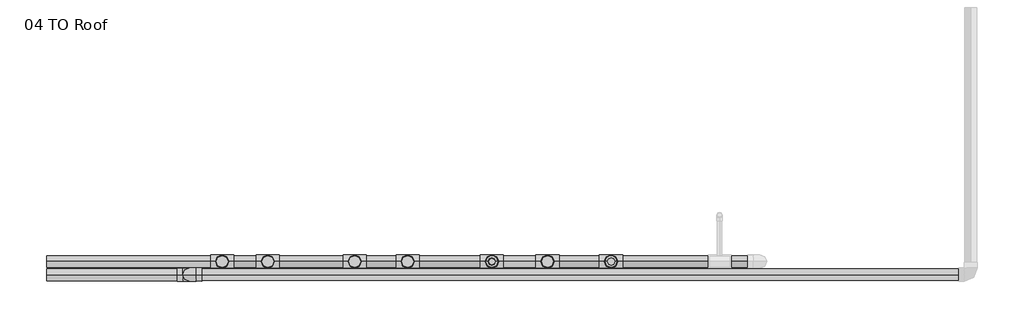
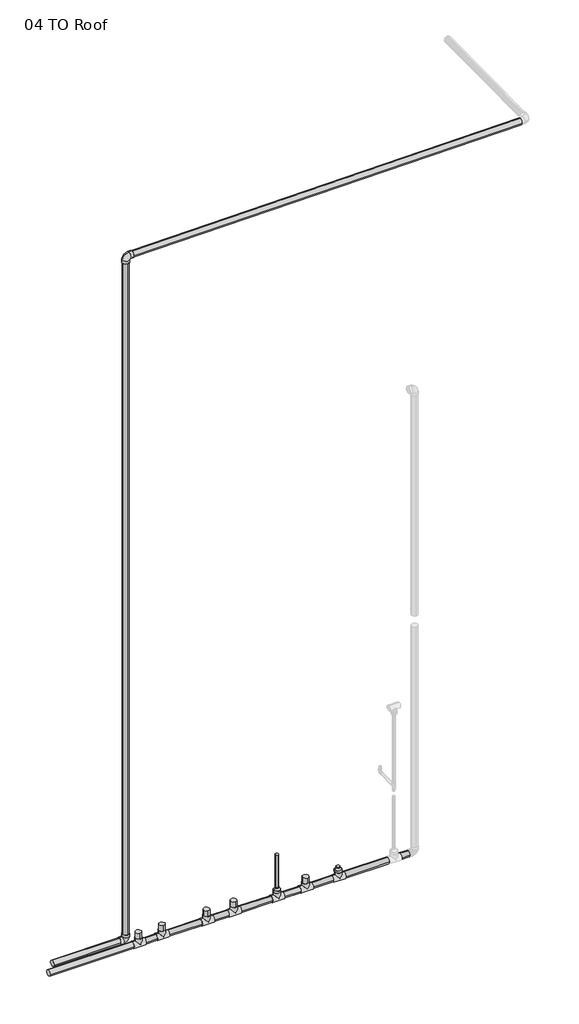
# One storey, part 1 of 2: 18 pipe segments, 11 pipe fittings.
"""IFC4 building model written with IfcOpenShell, lengths in millimetres."""

from ifc_helpers import new_model, si_unit, point, frame, frame_2d, origin, place, context, project, spatial, circle_curve, trimmed, segment, composite_curve, outline, extrude, transform, mapped, element, save
from components import elbow_pvc_sch_40_standard_f9cb6bb1, elbow_pvc_sch_40_standard_512eced2, reducer_pvc_sch_40_dwv_standard_07db09cb, tee_pvc_sch_40_standard_5c3f4d2b

model = new_model("IFC4")

# Units and contexts
model_context = context("Model", 3, world=origin())
ifc_project = project(units=[si_unit("LENGTHUNIT", "METRE", prefix="MILLI")], contexts=[model_context])

# Site, building, storey
site = spatial("IfcSite", under=ifc_project)
building = spatial("IfcBuilding", under=site)
storey = spatial("IfcBuildingStorey", under=building, Name="04 TO Roof", Elevation=13716.0)

# Pipe fittings
placement = place(None, origin())
elbow_pvc_sch_40_standard_shape = elbow_pvc_sch_40_standard_f9cb6bb1(model_context)
element("IfcPipeFitting", 1, ObjectType="Elbow - PVC - Sch 40 : Standard", at=placement, inside=storey, context=model_context, shape_type="MappedRepresentation", body=[
    mapped(elbow_pvc_sch_40_standard_shape, transform((-17711.6989188, -4567.1253665, 12905.9957575), x_axis=(-0.9999457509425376, 0.0, -0.010416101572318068), y_axis=(0.010416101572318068, 0.0, -0.9999457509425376), z_axis=(0.0, -1.0, 0.0))),
])
elbow_pvc_sch_40_standard_2_shape = elbow_pvc_sch_40_standard_512eced2(model_context)
element("IfcPipeFitting", 2, ObjectType="Elbow - PVC - Sch 40 : Standard", at=placement, inside=storey, context=model_context, shape_type="MappedRepresentation", body=[
    mapped(elbow_pvc_sch_40_standard_2_shape, transform((-17711.7251935, -4567.1516443, -568.4459426), x_axis=(0.0, 0.0, -1.0), y_axis=(-1.0, 0.0, 0.0), z_axis=(0.0, 1.0, 0.0))),
])
reducer_pvc_sch_40_dwv_standard_shape = reducer_pvc_sch_40_dwv_standard_07db09cb(model_context)
element("IfcPipeFitting", 3, ObjectType="Reducer - PVC - Sch 40 - DWV : Standard", at=placement, inside=storey, context=model_context, shape_type="MappedRepresentation", body=[
    mapped(reducer_pvc_sch_40_dwv_standard_shape, transform((-13669.7542617, -4439.7857603, -720.9943487), x_axis=(0.0, 0.0, 1.0), y_axis=(1.0, 0.0, 0.0), z_axis=(0.0, 1.0, 0.0))),
])
element("IfcPipeFitting", 4, ObjectType="Reducer - PVC - Sch 40 - DWV : Standard", at=placement, inside=storey, context=model_context, shape_type="MappedRepresentation", body=[
    mapped(reducer_pvc_sch_40_dwv_standard_shape, transform((-14812.7542617, -4439.7857603, -720.9943487), x_axis=(0.0, 0.0, 1.0), y_axis=(1.0, 0.0, 0.0), z_axis=(0.0, 1.0, 0.0))),
])
tee_pvc_sch_40_standard_shape = tee_pvc_sch_40_standard_5c3f4d2b(model_context)
element("IfcPipeFitting", 5, ObjectType="Tee - PVC - Sch 40 : Standard", at=placement, inside=storey, context=model_context, shape_type="MappedRepresentation", body=[
    mapped(tee_pvc_sch_40_standard_shape, transform((-17399.6186686, -4439.7857603, -832.1193487), x_axis=(-1.0, 0.0, 0.0), y_axis=(0.0, 0.0, -1.0), z_axis=(0.0, -1.0, 0.0))),
])
element("IfcPipeFitting", 6, ObjectType="Tee - PVC - Sch 40 : Standard", at=placement, inside=storey, context=model_context, shape_type="MappedRepresentation", body=[
    mapped(tee_pvc_sch_40_standard_shape, transform((-16128.0974824, -4439.7857603, -832.1193487), x_axis=(-1.0, 0.0, 0.0), y_axis=(0.0, 0.0, -1.0), z_axis=(0.0, -1.0, 0.0))),
])
element("IfcPipeFitting", 7, ObjectType="Tee - PVC - Sch 40 : Standard", at=placement, inside=storey, context=model_context, shape_type="MappedRepresentation", body=[
    mapped(tee_pvc_sch_40_standard_shape, transform((-16961.4686686, -4439.7857603, -832.1193487), x_axis=(-1.0, 0.0, 0.0), y_axis=(0.0, 0.0, -1.0), z_axis=(0.0, -1.0, 0.0))),
])
element("IfcPipeFitting", 8, ObjectType="Tee - PVC - Sch 40 : Standard", at=placement, inside=storey, context=model_context, shape_type="MappedRepresentation", body=[
    mapped(tee_pvc_sch_40_standard_shape, transform((-15620.0974824, -4439.7857603, -832.1193487), x_axis=(-1.0, 0.0, 0.0), y_axis=(0.0, 0.0, -1.0), z_axis=(0.0, -1.0, 0.0))),
])
element("IfcPipeFitting", 9, ObjectType="Tee - PVC - Sch 40 : Standard", at=placement, inside=storey, context=model_context, shape_type="MappedRepresentation", body=[
    mapped(tee_pvc_sch_40_standard_shape, transform((-14278.7262962, -4439.7857603, -832.1193487), x_axis=(-1.0, 0.0, 0.0), y_axis=(0.0, 0.0, -1.0), z_axis=(0.0, -1.0, 0.0))),
])
element("IfcPipeFitting", 10, ObjectType="Tee - PVC - Sch 40 : Standard", at=placement, inside=storey, context=model_context, shape_type="MappedRepresentation", body=[
    mapped(tee_pvc_sch_40_standard_shape, transform((-13669.7542617, -4439.7857603, -832.1193487), x_axis=(-1.0, 0.0, 0.0), y_axis=(0.0, 0.0, -1.0), z_axis=(0.0, -1.0, 0.0))),
])
element("IfcPipeFitting", 11, ObjectType="Tee - PVC - Sch 40 : Standard", at=placement, inside=storey, context=model_context, shape_type="MappedRepresentation", body=[
    mapped(tee_pvc_sch_40_standard_shape, transform((-14812.7542617, -4439.7857603, -832.1193487), x_axis=(-1.0, 0.0, 0.0), y_axis=(0.0, 0.0, -1.0), z_axis=(0.0, -1.0, 0.0))),
])

# Pipe segments
element("IfcPipeSegment", 12, ObjectType="Standard", at=placement, inside=storey, context=model_context, shape_type="SweptSolid", body=[
    extrude(outline(composite_curve([segment(trimmed(circle_curve(frame_2d((0.0, -57.15)), 57.15), [point((0.0, 0.0))], [point((57.15, -57.15))], False, "CARTESIAN"), True, "CONTINUOUS"), segment(trimmed(circle_curve(frame_2d((0.0, -57.15)), 57.15), [point((57.15, -57.15))], [point((0.0, -114.3))], False, "CARTESIAN"), True, "CONTINUOUS"), segment(trimmed(circle_curve(frame_2d((0.0, -57.15)), 57.15), [point((0.0, -114.3))], [point((-57.15, -57.15))], False, "CARTESIAN"), True, "CONTINUOUS"), segment(trimmed(circle_curve(frame_2d((0.0, -57.15)), 57.15), [point((-57.15, -57.15))], [point((0.0, 0.0))], False, "CARTESIAN"), True, "CONTINUOUS")], self_intersect=False)), frame((-17595.6775017, -4509.9753665, 12907.2043139), z_axis=(0.9999457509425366, 0.0, 0.010416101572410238), x_axis=(0.010416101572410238, 0.0, -0.9999457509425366)), (0.0, 0.0, 1.0), 7260.2503479),
])
element("IfcPipeSegment", 13, ObjectType="Standard", at=placement, inside=storey, context=model_context, shape_type="SweptSolid", body=[
    extrude(outline(composite_curve([segment(trimmed(circle_curve(frame_2d((0.0, -57.15)), 57.15), [point((-57.15, -57.15))], [point((0.0, 0.0))], False, "CARTESIAN"), True, "CONTINUOUS"), segment(trimmed(circle_curve(frame_2d((0.0, -57.15)), 57.15), [point((0.0, 0.0))], [point((57.15, -57.15))], False, "CARTESIAN"), True, "CONTINUOUS"), segment(trimmed(circle_curve(frame_2d((0.0, -57.15)), 57.15), [point((57.15, -57.15))], [point((0.0, -114.3))], False, "CARTESIAN"), True, "CONTINUOUS"), segment(trimmed(circle_curve(frame_2d((0.0, -57.15)), 57.15), [point((0.0, -114.3))], [point((-57.15, -57.15))], False, "CARTESIAN"), True, "CONTINUOUS")], self_intersect=False)), frame((-17711.7251935, -4624.3016443, -451.7528868), z_axis=(1.9842404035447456e-06, 1.9844693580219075e-06, 0.9999999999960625), x_axis=(-0.9999999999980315, 3.9381831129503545e-12, 1.9842404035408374e-06)), (0.0, 0.0, 1.0), 13241.7210462),
])
element("IfcPipeSegment", 14, ObjectType="Standard", at=placement, inside=storey, context=model_context, shape_type="SweptSolid", body=[
    extrude(outline(composite_curve([segment(trimmed(circle_curve(frame_2d((0.0, -57.15)), 57.15), [point((-57.15, -57.15))], [point((0.0, 0.0))], False, "CARTESIAN"), True, "CONTINUOUS"), segment(trimmed(circle_curve(frame_2d((0.0, -57.15)), 57.15), [point((0.0, 0.0))], [point((57.15, -57.15))], False, "CARTESIAN"), True, "CONTINUOUS"), segment(trimmed(circle_curve(frame_2d((0.0, -57.15)), 57.15), [point((57.15, -57.15))], [point((0.0, -114.3))], False, "CARTESIAN"), True, "CONTINUOUS"), segment(trimmed(circle_curve(frame_2d((0.0, -57.15)), 57.15), [point((0.0, -114.3))], [point((-57.15, -57.15))], False, "CARTESIAN"), True, "CONTINUOUS")], self_intersect=False)), frame((-19083.3242977, -4567.1516443, -625.6174381), z_axis=(0.9999999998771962, 0.0, 1.5671875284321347e-05), x_axis=(0.0, -1.0, 0.0)), (0.0, 0.0, 1.0), 1254.9070576),
])
element("IfcPipeSegment", 15, ObjectType="Standard", at=placement, inside=storey, context=model_context, shape_type="SweptSolid", body=[
    extrude(outline(composite_curve([segment(trimmed(circle_curve(frame_2d((-17399.6186686, -4439.7857603)), 57.15), [point((-17456.7686686, -4439.7857603))], [point((-17399.6186686, -4382.6357603))], False, "CARTESIAN"), True, "CONTINUOUS"), segment(trimmed(circle_curve(frame_2d((-17399.6186686, -4439.7857603)), 57.15), [point((-17399.6186686, -4382.6357603))], [point((-17342.4686686, -4439.7857603))], False, "CARTESIAN"), True, "CONTINUOUS"), segment(trimmed(circle_curve(frame_2d((-17399.6186686, -4439.7857603)), 57.15), [point((-17342.4686686, -4439.7857603))], [point((-17399.6186686, -4496.9357603))], False, "CARTESIAN"), True, "CONTINUOUS"), segment(trimmed(circle_curve(frame_2d((-17399.6186686, -4439.7857603)), 57.15), [point((-17399.6186686, -4496.9357603))], [point((-17456.7686686, -4439.7857603))], False, "CARTESIAN"), True, "CONTINUOUS")], self_intersect=False)), frame((0.0, 0.0, -720.9943487), z_axis=(0.0, 0.0, 1.0), x_axis=(1.0, 0.0, 0.0)), (0.0, 0.0, 1.0), 109.5106552),
])
element("IfcPipeSegment", 16, ObjectType="Standard", at=placement, inside=storey, context=model_context, shape_type="SweptSolid", body=[
    extrude(outline(composite_curve([segment(trimmed(circle_curve(frame_2d((-4439.7857603, -832.1193487)), 57.15), [point((-4382.6357603, -832.1193487))], [point((-4439.7857603, -889.2693487))], False, "CARTESIAN"), True, "CONTINUOUS"), segment(trimmed(circle_curve(frame_2d((-4439.7857603, -832.1193487)), 57.15), [point((-4439.7857603, -889.2693487))], [point((-4496.9357603, -832.1193487))], False, "CARTESIAN"), True, "CONTINUOUS"), segment(trimmed(circle_curve(frame_2d((-4439.7857603, -832.1193487)), 57.15), [point((-4496.9357603, -832.1193487))], [point((-4439.7857603, -774.9693487))], False, "CARTESIAN"), True, "CONTINUOUS"), segment(trimmed(circle_curve(frame_2d((-4439.7857603, -832.1193487)), 57.15), [point((-4439.7857603, -774.9693487))], [point((-4382.6357603, -832.1193487))], False, "CARTESIAN"), True, "CONTINUOUS")], self_intersect=False)), frame((-19083.4800068, 0.0, 0.0), z_axis=(1.0, 0.0, 0.0), x_axis=(0.0, 1.0, 0.0)), (0.0, 0.0, 1.0), 1572.7363382),
])
element("IfcPipeSegment", 17, ObjectType="Standard", at=placement, inside=storey, context=model_context, shape_type="SweptSolid", body=[
    extrude(outline(composite_curve([segment(trimmed(circle_curve(frame_2d((-16128.0974824, -4439.7857603)), 57.15), [point((-16185.2474824, -4439.7857603))], [point((-16128.0974824, -4382.6357603))], False, "CARTESIAN"), True, "CONTINUOUS"), segment(trimmed(circle_curve(frame_2d((-16128.0974824, -4439.7857603)), 57.15), [point((-16128.0974824, -4382.6357603))], [point((-16070.9474824, -4439.7857603))], False, "CARTESIAN"), True, "CONTINUOUS"), segment(trimmed(circle_curve(frame_2d((-16128.0974824, -4439.7857603)), 57.15), [point((-16070.9474824, -4439.7857603))], [point((-16128.0974824, -4496.9357603))], False, "CARTESIAN"), True, "CONTINUOUS"), segment(trimmed(circle_curve(frame_2d((-16128.0974824, -4439.7857603)), 57.15), [point((-16128.0974824, -4496.9357603))], [point((-16185.2474824, -4439.7857603))], False, "CARTESIAN"), True, "CONTINUOUS")], self_intersect=False)), frame((0.0, 0.0, -720.9943487), z_axis=(0.0, 0.0, 1.0), x_axis=(1.0, 0.0, 0.0)), (0.0, 0.0, 1.0), 109.5106552),
])
element("IfcPipeSegment", 18, ObjectType="Standard", at=placement, inside=storey, context=model_context, shape_type="SweptSolid", body=[
    extrude(outline(composite_curve([segment(trimmed(circle_curve(frame_2d((-4439.7857603, -832.1193487)), 57.15), [point((-4496.9357603, -832.1193487))], [point((-4439.7857603, -774.9693487))], False, "CARTESIAN"), True, "CONTINUOUS"), segment(trimmed(circle_curve(frame_2d((-4439.7857603, -832.1193487)), 57.15), [point((-4439.7857603, -774.9693487))], [point((-4382.6357603, -832.1193487))], False, "CARTESIAN"), True, "CONTINUOUS"), segment(trimmed(circle_curve(frame_2d((-4439.7857603, -832.1193487)), 57.15), [point((-4382.6357603, -832.1193487))], [point((-4439.7857603, -889.2693487))], False, "CARTESIAN"), True, "CONTINUOUS"), segment(trimmed(circle_curve(frame_2d((-4439.7857603, -832.1193487)), 57.15), [point((-4439.7857603, -889.2693487))], [point((-4496.9357603, -832.1193487))], False, "CARTESIAN"), True, "CONTINUOUS")], self_intersect=False)), frame((-16850.3436686, 0.0, 0.0), z_axis=(1.0, 0.0, 0.0), x_axis=(0.0, 1.0, 0.0)), (0.0, 0.0, 1.0), 611.1211862),
])
element("IfcPipeSegment", 19, ObjectType="Standard", at=placement, inside=storey, context=model_context, shape_type="SweptSolid", body=[
    extrude(outline(composite_curve([segment(trimmed(circle_curve(frame_2d((-16961.4686686, -4439.7857603)), 57.15), [point((-17018.6186686, -4439.7857603))], [point((-16961.4686686, -4382.6357603))], False, "CARTESIAN"), True, "CONTINUOUS"), segment(trimmed(circle_curve(frame_2d((-16961.4686686, -4439.7857603)), 57.15), [point((-16961.4686686, -4382.6357603))], [point((-16904.3186686, -4439.7857603))], False, "CARTESIAN"), True, "CONTINUOUS"), segment(trimmed(circle_curve(frame_2d((-16961.4686686, -4439.7857603)), 57.15), [point((-16904.3186686, -4439.7857603))], [point((-16961.4686686, -4496.9357603))], False, "CARTESIAN"), True, "CONTINUOUS"), segment(trimmed(circle_curve(frame_2d((-16961.4686686, -4439.7857603)), 57.15), [point((-16961.4686686, -4496.9357603))], [point((-17018.6186686, -4439.7857603))], False, "CARTESIAN"), True, "CONTINUOUS")], self_intersect=False)), frame((0.0, 0.0, -720.9943487), z_axis=(0.0, 0.0, 1.0), x_axis=(1.0, 0.0, 0.0)), (0.0, 0.0, 1.0), 109.3423651),
])
element("IfcPipeSegment", 20, ObjectType="Standard", at=placement, inside=storey, context=model_context, shape_type="SweptSolid", body=[
    extrude(outline(composite_curve([segment(trimmed(circle_curve(frame_2d((-4439.7857603, -832.1193487)), 57.15), [point((-4496.9357603, -832.1193487))], [point((-4439.7857603, -774.9693487))], False, "CARTESIAN"), True, "CONTINUOUS"), segment(trimmed(circle_curve(frame_2d((-4439.7857603, -832.1193487)), 57.15), [point((-4439.7857603, -774.9693487))], [point((-4382.6357603, -832.1193487))], False, "CARTESIAN"), True, "CONTINUOUS"), segment(trimmed(circle_curve(frame_2d((-4439.7857603, -832.1193487)), 57.15), [point((-4382.6357603, -832.1193487))], [point((-4439.7857603, -889.2693487))], False, "CARTESIAN"), True, "CONTINUOUS"), segment(trimmed(circle_curve(frame_2d((-4439.7857603, -832.1193487)), 57.15), [point((-4439.7857603, -889.2693487))], [point((-4496.9357603, -832.1193487))], False, "CARTESIAN"), True, "CONTINUOUS")], self_intersect=False)), frame((-17288.4936686, 0.0, 0.0), z_axis=(1.0, 0.0, 0.0), x_axis=(0.0, 1.0, 0.0)), (0.0, 0.0, 1.0), 215.9),
])
element("IfcPipeSegment", 21, ObjectType="Standard", at=placement, inside=storey, context=model_context, shape_type="SweptSolid", body=[
    extrude(outline(composite_curve([segment(trimmed(circle_curve(frame_2d((-15620.0974824, -4439.7857603)), 57.15), [point((-15677.2474824, -4439.7857603))], [point((-15620.0974824, -4382.6357603))], False, "CARTESIAN"), True, "CONTINUOUS"), segment(trimmed(circle_curve(frame_2d((-15620.0974824, -4439.7857603)), 57.15), [point((-15620.0974824, -4382.6357603))], [point((-15562.9474824, -4439.7857603))], False, "CARTESIAN"), True, "CONTINUOUS"), segment(trimmed(circle_curve(frame_2d((-15620.0974824, -4439.7857603)), 57.15), [point((-15562.9474824, -4439.7857603))], [point((-15620.0974824, -4496.9357603))], False, "CARTESIAN"), True, "CONTINUOUS"), segment(trimmed(circle_curve(frame_2d((-15620.0974824, -4439.7857603)), 57.15), [point((-15620.0974824, -4496.9357603))], [point((-15677.2474824, -4439.7857603))], False, "CARTESIAN"), True, "CONTINUOUS")], self_intersect=False)), frame((0.0, 0.0, -720.9943487), z_axis=(0.0, 0.0, 1.0), x_axis=(1.0, 0.0, 0.0)), (0.0, 0.0, 1.0), 109.3423651),
])
element("IfcPipeSegment", 22, ObjectType="Standard", at=placement, inside=storey, context=model_context, shape_type="SweptSolid", body=[
    extrude(outline(composite_curve([segment(trimmed(circle_curve(frame_2d((-4439.7857603, -832.1193487)), 57.15), [point((-4496.9357603, -832.1193487))], [point((-4439.7857603, -774.9693487))], False, "CARTESIAN"), True, "CONTINUOUS"), segment(trimmed(circle_curve(frame_2d((-4439.7857603, -832.1193487)), 57.15), [point((-4439.7857603, -774.9693487))], [point((-4382.6357603, -832.1193487))], False, "CARTESIAN"), True, "CONTINUOUS"), segment(trimmed(circle_curve(frame_2d((-4439.7857603, -832.1193487)), 57.15), [point((-4382.6357603, -832.1193487))], [point((-4439.7857603, -889.2693487))], False, "CARTESIAN"), True, "CONTINUOUS"), segment(trimmed(circle_curve(frame_2d((-4439.7857603, -832.1193487)), 57.15), [point((-4439.7857603, -889.2693487))], [point((-4496.9357603, -832.1193487))], False, "CARTESIAN"), True, "CONTINUOUS")], self_intersect=False)), frame((-16016.9724824, 0.0, 0.0), z_axis=(1.0, 0.0, 0.0), x_axis=(0.0, 1.0, 0.0)), (0.0, 0.0, 1.0), 285.75),
])
element("IfcPipeSegment", 23, ObjectType="Standard", at=placement, inside=storey, context=model_context, shape_type="SweptSolid", body=[
    extrude(outline(composite_curve([segment(trimmed(circle_curve(frame_2d((-14278.7262962, -4439.7857603)), 57.15), [point((-14335.8762962, -4439.7857603))], [point((-14278.7262962, -4382.6357603))], False, "CARTESIAN"), True, "CONTINUOUS"), segment(trimmed(circle_curve(frame_2d((-14278.7262962, -4439.7857603)), 57.15), [point((-14278.7262962, -4382.6357603))], [point((-14221.5762962, -4439.7857603))], False, "CARTESIAN"), True, "CONTINUOUS"), segment(trimmed(circle_curve(frame_2d((-14278.7262962, -4439.7857603)), 57.15), [point((-14221.5762962, -4439.7857603))], [point((-14278.7262962, -4496.9357603))], False, "CARTESIAN"), True, "CONTINUOUS"), segment(trimmed(circle_curve(frame_2d((-14278.7262962, -4439.7857603)), 57.15), [point((-14278.7262962, -4496.9357603))], [point((-14335.8762962, -4439.7857603))], False, "CARTESIAN"), True, "CONTINUOUS")], self_intersect=False)), frame((0.0, 0.0, -720.9943487), z_axis=(0.0, 0.0, 1.0), x_axis=(1.0, 0.0, 0.0)), (0.0, 0.0, 1.0), 109.3423651),
])
element("IfcPipeSegment", 24, ObjectType="Standard", at=placement, inside=storey, context=model_context, shape_type="SweptSolid", body=[
    extrude(outline(composite_curve([segment(trimmed(circle_curve(frame_2d((-4439.7857603, -832.1193487)), 57.15), [point((-4382.6357603, -832.1193487))], [point((-4439.7857603, -889.2693487))], False, "CARTESIAN"), True, "CONTINUOUS"), segment(trimmed(circle_curve(frame_2d((-4439.7857603, -832.1193487)), 57.15), [point((-4439.7857603, -889.2693487))], [point((-4496.9357603, -832.1193487))], False, "CARTESIAN"), True, "CONTINUOUS"), segment(trimmed(circle_curve(frame_2d((-4439.7857603, -832.1193487)), 57.15), [point((-4496.9357603, -832.1193487))], [point((-4439.7857603, -774.9693487))], False, "CARTESIAN"), True, "CONTINUOUS"), segment(trimmed(circle_curve(frame_2d((-4439.7857603, -832.1193487)), 57.15), [point((-4439.7857603, -774.9693487))], [point((-4382.6357603, -832.1193487))], False, "CARTESIAN"), True, "CONTINUOUS")], self_intersect=False)), frame((-14701.6292617, 0.0, 0.0), z_axis=(1.0, 0.0, 0.0), x_axis=(0.0, 1.0, 0.0)), (0.0, 0.0, 1.0), 311.7779655),
])
element("IfcPipeSegment", 25, ObjectType="Standard", at=placement, inside=storey, context=model_context, shape_type="SweptSolid", body=[
    extrude(outline(composite_curve([segment(trimmed(circle_curve(frame_2d((-4439.7857603, -832.1193487)), 57.15), [point((-4496.9357603, -832.1193487))], [point((-4439.7857603, -774.9693487))], False, "CARTESIAN"), True, "CONTINUOUS"), segment(trimmed(circle_curve(frame_2d((-4439.7857603, -832.1193487)), 57.15), [point((-4439.7857603, -774.9693487))], [point((-4382.6357603, -832.1193487))], False, "CARTESIAN"), True, "CONTINUOUS"), segment(trimmed(circle_curve(frame_2d((-4439.7857603, -832.1193487)), 57.15), [point((-4382.6357603, -832.1193487))], [point((-4439.7857603, -889.2693487))], False, "CARTESIAN"), True, "CONTINUOUS"), segment(trimmed(circle_curve(frame_2d((-4439.7857603, -832.1193487)), 57.15), [point((-4439.7857603, -889.2693487))], [point((-4496.9357603, -832.1193487))], False, "CARTESIAN"), True, "CONTINUOUS")], self_intersect=False)), frame((-14167.6012962, 0.0, 0.0), z_axis=(1.0, 0.0, 0.0), x_axis=(0.0, 1.0, 0.0)), (0.0, 0.0, 1.0), 386.7220345),
])
element("IfcPipeSegment", 26, ObjectType="Standard", at=placement, inside=storey, context=model_context, shape_type="SweptSolid", body=[
    extrude(outline(composite_curve([segment(trimmed(circle_curve(frame_2d((-14812.7542617, -4439.7857603)), 30.1625), [point((-14842.9167617, -4439.7857603))], [point((-14812.7542617, -4409.6232603))], False, "CARTESIAN"), True, "CONTINUOUS"), segment(trimmed(circle_curve(frame_2d((-14812.7542617, -4439.7857603)), 30.1625), [point((-14812.7542617, -4409.6232603))], [point((-14782.5917617, -4439.7857603))], False, "CARTESIAN"), True, "CONTINUOUS"), segment(trimmed(circle_curve(frame_2d((-14812.7542617, -4439.7857603)), 30.1625), [point((-14782.5917617, -4439.7857603))], [point((-14812.7542617, -4469.9482603))], False, "CARTESIAN"), True, "CONTINUOUS"), segment(trimmed(circle_curve(frame_2d((-14812.7542617, -4439.7857603)), 30.1625), [point((-14812.7542617, -4469.9482603))], [point((-14842.9167617, -4439.7857603))], False, "CARTESIAN"), True, "CONTINUOUS")], self_intersect=False)), frame((0.0, 0.0, -622.5693487), z_axis=(0.0, 0.0, 1.0), x_axis=(1.0, 0.0, 0.0)), (0.0, 0.0, 1.0), 634.2992946),
])
element("IfcPipeSegment", 27, ObjectType="Standard", at=placement, inside=storey, context=model_context, shape_type="SweptSolid", body=[
    extrude(outline(composite_curve([segment(trimmed(circle_curve(frame_2d((-4439.7857603, -832.1193487)), 57.15), [point((-4496.9357603, -832.1193487))], [point((-4439.7857603, -774.9693487))], False, "CARTESIAN"), True, "CONTINUOUS"), segment(trimmed(circle_curve(frame_2d((-4439.7857603, -832.1193487)), 57.15), [point((-4439.7857603, -774.9693487))], [point((-4382.6357603, -832.1193487))], False, "CARTESIAN"), True, "CONTINUOUS"), segment(trimmed(circle_curve(frame_2d((-4439.7857603, -832.1193487)), 57.15), [point((-4382.6357603, -832.1193487))], [point((-4439.7857603, -889.2693487))], False, "CARTESIAN"), True, "CONTINUOUS"), segment(trimmed(circle_curve(frame_2d((-4439.7857603, -832.1193487)), 57.15), [point((-4439.7857603, -889.2693487))], [point((-4496.9357603, -832.1193487))], False, "CARTESIAN"), True, "CONTINUOUS")], self_intersect=False)), frame((-15508.9724824, 0.0, 0.0), z_axis=(1.0, 0.0, 0.0), x_axis=(0.0, 1.0, 0.0)), (0.0, 0.0, 1.0), 585.0932207),
])
element("IfcPipeSegment", 28, ObjectType="Standard", at=placement, inside=storey, context=model_context, shape_type="SweptSolid", body=[
    extrude(outline(composite_curve([segment(trimmed(circle_curve(frame_2d((-4439.7857603, -832.1193487)), 57.15), [point((-4496.9357603, -832.1193487))], [point((-4439.7857603, -774.9693487))], False, "CARTESIAN"), True, "CONTINUOUS"), segment(trimmed(circle_curve(frame_2d((-4439.7857603, -832.1193487)), 57.15), [point((-4439.7857603, -774.9693487))], [point((-4382.6357603, -832.1193487))], False, "CARTESIAN"), True, "CONTINUOUS"), segment(trimmed(circle_curve(frame_2d((-4439.7857603, -832.1193487)), 57.15), [point((-4382.6357603, -832.1193487))], [point((-4439.7857603, -889.2693487))], False, "CARTESIAN"), True, "CONTINUOUS"), segment(trimmed(circle_curve(frame_2d((-4439.7857603, -832.1193487)), 57.15), [point((-4439.7857603, -889.2693487))], [point((-4496.9357603, -832.1193487))], False, "CARTESIAN"), True, "CONTINUOUS")], self_intersect=False)), frame((-12517.2292617, 0.0, 0.0), z_axis=(1.0, 0.0, 0.0), x_axis=(0.0, 1.0, 0.0)), (0.0, 0.0, 1.0), 159.3204338),
])
element("IfcPipeSegment", 29, ObjectType="Standard", at=placement, inside=storey, context=model_context, shape_type="SweptSolid", body=[
    extrude(outline(composite_curve([segment(trimmed(circle_curve(frame_2d((-4439.7857603, -832.1193487)), 57.15), [point((-4496.9357603, -832.1193487))], [point((-4439.7857603, -774.9693487))], False, "CARTESIAN"), True, "CONTINUOUS"), segment(trimmed(circle_curve(frame_2d((-4439.7857603, -832.1193487)), 57.15), [point((-4439.7857603, -774.9693487))], [point((-4382.6357603, -832.1193487))], False, "CARTESIAN"), True, "CONTINUOUS"), segment(trimmed(circle_curve(frame_2d((-4439.7857603, -832.1193487)), 57.15), [point((-4382.6357603, -832.1193487))], [point((-4439.7857603, -889.2693487))], False, "CARTESIAN"), True, "CONTINUOUS"), segment(trimmed(circle_curve(frame_2d((-4439.7857603, -832.1193487)), 57.15), [point((-4439.7857603, -889.2693487))], [point((-4496.9357603, -832.1193487))], False, "CARTESIAN"), True, "CONTINUOUS")], self_intersect=False)), frame((-13558.6292617, 0.0, 0.0), z_axis=(1.0, 0.0, 0.0), x_axis=(0.0, 1.0, 0.0)), (0.0, 0.0, 1.0), 819.15),
])

save(model, "model.ifc")
